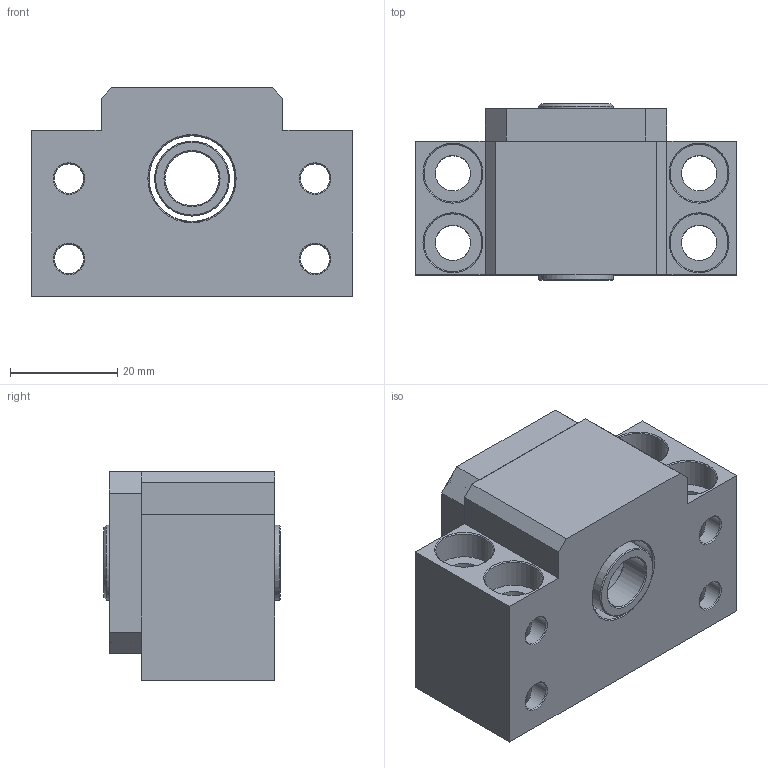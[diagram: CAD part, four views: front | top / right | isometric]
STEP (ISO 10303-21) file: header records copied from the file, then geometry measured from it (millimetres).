
FILE_DESCRIPTION(/* description */ (''),/* implementation_level */ '2;1');
FILE_NAME(/* name */ 'C:\Users\Workstation\ownCloud\Kamp und Kötter\Artikel\Lagerset Stehlager (BK-BF)\02_STEP-Dateien\Steh-Festlager KUS12.stp',/* time_stamp */ '2018-05-28T11:40:17+02:00',/* author */ ('Workstation'),/* organization */ (''),/* preprocessor_version */ 'ST-DEVELOPER v17',/* originating_system */ 'Autodesk Inventor 2019',/* authorisation */ '');
FILE_SCHEMA (('AUTOMOTIVE_DESIGN { 1 0 10303 214 3 1 1 }'));
Length unit declared in the file: millimetre
Products named in the file (7): BK10-Zusammenbau; BK12-Abdeckkappe; BK12-Grundkörper; BK12-Distanzring; BK12-Dinstanzring-vorne; BK12-Dinstanzring-hinten; DIN 912 - M4 x 6
Assembly tree (9 placements, depth 2):
  BK10-Zusammenbau
    BK12-Abdeckkappe
    BK12-Grundkörper
    BK12-Distanzring
    BK12-Dinstanzring-vorne
    BK12-Dinstanzring-hinten
    DIN 912 - M4 x 6  x4
Bounding box: 60 x 33 x 39 mm (x, y, z)
Volume: 41738.5 mm3; surface area: 21062.9 mm2
Topology: 9 solids, 9 shells, 177 faces, 464 edges, 320 vertices
Faces by surface type: plane 75, cylinder 51, cone 43, torus 8
Full cylindrical faces by diameter (mm): 3.242 x4, 4 x4, 4.8 x4, 5.5 x12, 6.6 x4, 7 x8, 10.1 x2, 10.8 x4, 14 x2, 16 x1, 16.1 x1, 19 x1, 22 x1, 26 x3
Entity records: 5083 total; most frequent: CARTESIAN_POINT 1404, DIRECTION 744, ORIENTED_EDGE 672, EDGE_CURVE 336, AXIS2_PLACEMENT_3D 298, VERTEX_POINT 233, EDGE_LOOP 199, CIRCLE 149
